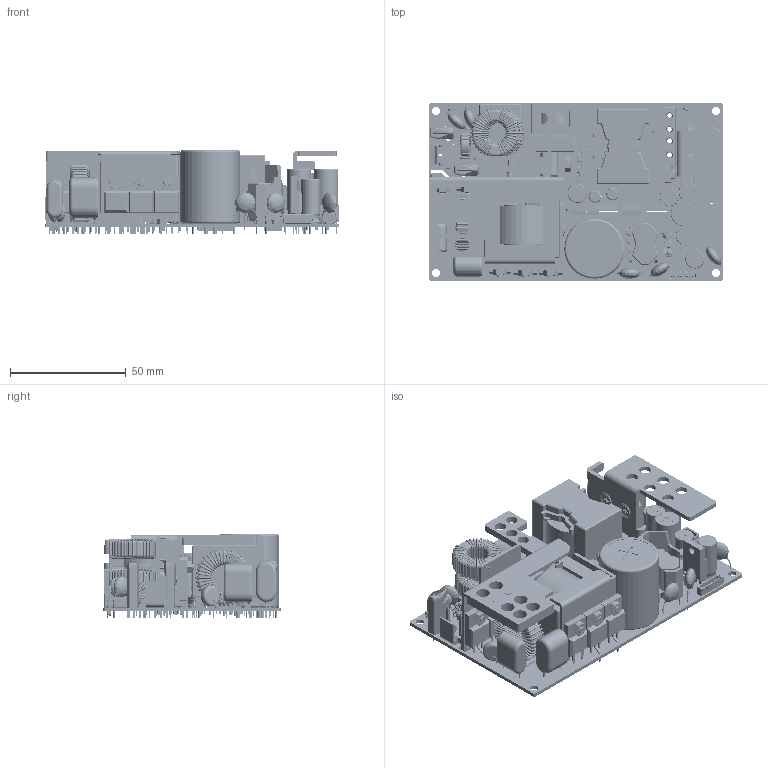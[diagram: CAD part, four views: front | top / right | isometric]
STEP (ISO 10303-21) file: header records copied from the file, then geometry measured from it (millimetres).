
FILE_DESCRIPTION((''),'2;1');
FILE_NAME('MDS-300APB12_AA','2015-09-07T',('Xiaojun.Wu'),(''),'CREO PARAMETRIC BY PTC INC, 2015200','CREO PARAMETRIC BY PTC INC, 2015200','');
FILE_SCHEMA(('CONFIG_CONTROL_DESIGN'));
Products named in the file (93): MDS-300APB12_AA_PCB_AF0; HEAT_SINK-1_AF1; HSK-1; PIN_AF0; PIN_AF1; HEAT_SINK-1_AF0; Q5_Q6_AF0; Q5_Q6_AF1; BD1_AF0; 3105319000_M3X6_GB822; 3105456700_M3X7_GB819; 3110110100_M3_GB6170; HSK1_AF0; HEAT_SINK-2_AF1; PIN_AF2; PIN_AF3; HEAT_SINK-2_AF0; D10_AF0; Q5_Q6_AF2; Q5_Q6_AF3; HSK2_AF0; HEAT_SINK-3_AF1; PIN_AF4; PIN_AF5; HEAT_SINK-3_AF0; Q102_Q101_D101_AF0; Q102_Q101_D101_AF1; HSK3_AF0; HEAT_SINK-4; Q5_Q6_AF4; Q5_Q6_AF5; 3105451900_M3X11_GB822; HSK4_AF0; C1_AF0; CX1_AF0; CN101_AF0; C3_AF0; OUTPUT_TERMINAL_AF0; OUTPUT_TERMINAL_AF1; C5_AF0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
Assembly tree (112 placements, depth 4):
  MDS-300APB12_AA
    MDS-300APB12_AA_PCB_AF0
    HSK1_AF0
      HEAT_SINK-1_AF0
        HEAT_SINK-1_AF1
        HSK-1
        PIN_AF0
        PIN_AF1
      Q5_Q6_AF0
      Q5_Q6_AF1
      BD1_AF0
      3105319000_M3X6_GB822
      3105456700_M3X7_GB819  x2
      3110110100_M3_GB6170  x2
    HSK2_AF0
      HEAT_SINK-2_AF0
        HEAT_SINK-2_AF1
        PIN_AF2
        PIN_AF3
      D10_AF0
      Q5_Q6_AF2
      Q5_Q6_AF3
      3105456700_M3X7_GB819  x3
      3110110100_M3_GB6170  x3
    HSK3_AF0
      HEAT_SINK-3_AF0
        HEAT_SINK-3_AF1
        PIN_AF4
        PIN_AF5
      Q102_Q101_D101_AF0
      Q102_Q101_D101_AF1
      3105456700_M3X7_GB819  x2
      3110110100_M3_GB6170  x2
    HSK4_AF0
      HEAT_SINK-4
      Q5_Q6_AF4
      Q5_Q6_AF5
      3105451900_M3X11_GB822
      3110110100_M3_GB6170
    C1_AF0
    CX1_AF0
    CN101_AF0
    C3_AF0
    OUTPUT_TERMINAL_AF0
    OUTPUT_TERMINAL_AF1
    C5_AF0
    C6_AF0
    CY_AF0
    CY_AF1
    CY_AF2
    CY_AF3
    C101_AF0
    C101_AF1
    C101_AF2
    C103_AF0
    C115_C116_AF0
    C115_C116_AF1
    C25_AF0
    C26_C27_AF0
    C26_C27_AF1
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Bounding box: 127.3 x 76.5 x 36.2 mm (x, y, z)
Volume: 137112.4 mm3; surface area: 126833.6 mm2
Topology: 225 solids, 249 shells, 7914 faces, 19043 edges, 11409 vertices
Faces by surface type: plane 3042, cylinder 2825, torus 1330, bspline 338, cone 217, sphere 114, extrusion 34, revolution 14
Entity records: 267562 total; most frequent: CARTESIAN_POINT 61942, DIRECTION 34518, ORIENTED_EDGE 32166, EDGE_CURVE 16101, AXIS2_PLACEMENT_3D 12677, PRESENTATION_STYLE_ASSIGNMENT 11424, STYLED_ITEM 10469, VERTEX_POINT 9832
